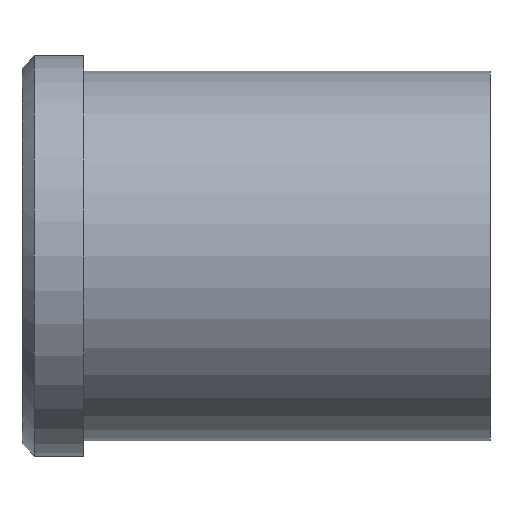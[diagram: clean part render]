
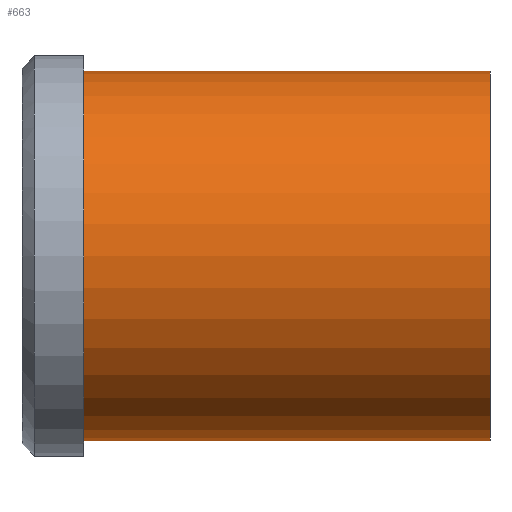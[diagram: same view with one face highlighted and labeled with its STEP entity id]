
A CAD part, front view. The second image highlights one B-rep face of the part: STEP entity #663.
In plain terms, the highlighted cylindrical face has radius 30 mm (diameter 60 mm), a partial arc.
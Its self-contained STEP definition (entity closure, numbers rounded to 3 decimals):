
#501=CARTESIAN_POINT('Vertex',(0.,0.,-30.)) ;
#506=CARTESIAN_POINT('Axis2P3D Location',(0.,0.,0.)) ;
#510=CARTESIAN_POINT('Vertex',(0.,-30.,0.)) ;
#513=CARTESIAN_POINT('Axis2P3D Location',(0.,0.,0.)) ;
#517=CARTESIAN_POINT('Vertex',(0.,0.,30.)) ;
#603=CARTESIAN_POINT('Line Origine',(66.,0.,30.)) ;
#607=CARTESIAN_POINT('Vertex',(66.,0.,30.)) ;
#621=CARTESIAN_POINT('Vertex',(66.,0.,-30.)) ;
#624=CARTESIAN_POINT('Line Origine',(66.,0.,-30.)) ;
#638=CARTESIAN_POINT('Axis2P3D Location',(66.,0.,0.)) ;
#643=CARTESIAN_POINT('Axis2P3D Location',(66.,0.,0.)) ;
#647=CARTESIAN_POINT('Vertex',(66.,-30.,0.)) ;
#650=CARTESIAN_POINT('Axis2P3D Location',(66.,0.,0.)) ;
#507=DIRECTION('Axis2P3D Direction',(1.,0.,-0.)) ;
#514=DIRECTION('Axis2P3D Direction',(1.,0.,-0.)) ;
#604=DIRECTION('Vector Direction',(-1.,0.,0.)) ;
#625=DIRECTION('Vector Direction',(-1.,0.,0.)) ;
#639=DIRECTION('Axis2P3D Direction',(-1.,-0.,-0.)) ;
#640=DIRECTION('Axis2P3D XDirection',(0.,0.,-1.)) ;
#644=DIRECTION('Axis2P3D Direction',(-1.,-0.,-0.)) ;
#651=DIRECTION('Axis2P3D Direction',(-1.,-0.,-0.)) ;
#508=AXIS2_PLACEMENT_3D('Circle Axis2P3D',#506,#507,$) ;
#515=AXIS2_PLACEMENT_3D('Circle Axis2P3D',#513,#514,$) ;
#641=AXIS2_PLACEMENT_3D('Cylinder Axis2P3D',#638,#639,#640) ;
#645=AXIS2_PLACEMENT_3D('Circle Axis2P3D',#643,#644,$) ;
#652=AXIS2_PLACEMENT_3D('Circle Axis2P3D',#650,#651,$) ;
#656=ORIENTED_EDGE('',*,*,#628,.T.) ;
#657=ORIENTED_EDGE('',*,*,#649,.F.) ;
#658=ORIENTED_EDGE('',*,*,#654,.F.) ;
#659=ORIENTED_EDGE('',*,*,#609,.T.) ;
#660=ORIENTED_EDGE('',*,*,#519,.T.) ;
#661=ORIENTED_EDGE('',*,*,#512,.T.) ;
#605=VECTOR('Line Direction',#604,1.) ;
#626=VECTOR('Line Direction',#625,1.) ;
#663=ADVANCED_FACE('353-50X76',(#662),#642,.T.) ;
#509=CIRCLE('generated circle',#508,30.) ;
#516=CIRCLE('generated circle',#515,30.) ;
#646=CIRCLE('generated circle',#645,30.) ;
#653=CIRCLE('generated circle',#652,30.) ;
#642=CYLINDRICAL_SURFACE('generated cylinder',#641,30.) ;
#512=EDGE_CURVE('',#511,#502,#509,.T.) ;
#519=EDGE_CURVE('',#518,#511,#516,.T.) ;
#609=EDGE_CURVE('',#608,#518,#606,.T.) ;
#628=EDGE_CURVE('',#502,#622,#627,.F.) ;
#649=EDGE_CURVE('',#648,#622,#646,.F.) ;
#654=EDGE_CURVE('',#608,#648,#653,.F.) ;
#655=EDGE_LOOP('',(#656,#657,#658,#659,#660,#661)) ;
#662=FACE_OUTER_BOUND('',#655,.T.) ;
#606=LINE('Line',#603,#605) ;
#627=LINE('Line',#624,#626) ;
#502=VERTEX_POINT('',#501) ;
#511=VERTEX_POINT('',#510) ;
#518=VERTEX_POINT('',#517) ;
#608=VERTEX_POINT('',#607) ;
#622=VERTEX_POINT('',#621) ;
#648=VERTEX_POINT('',#647) ;
